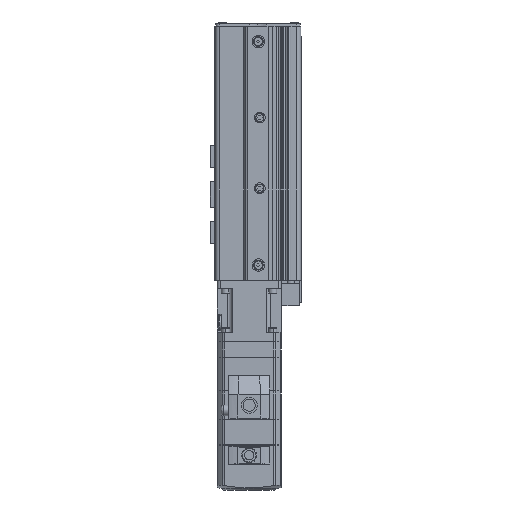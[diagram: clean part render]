
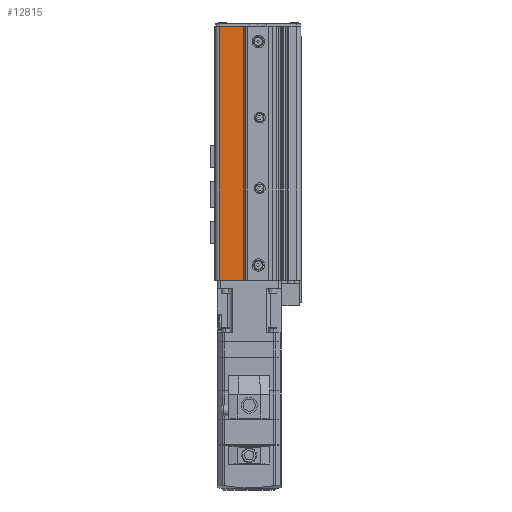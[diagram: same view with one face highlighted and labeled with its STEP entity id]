
A CAD part, left-side view. The second image highlights one B-rep face of the part: STEP entity #12815.
In plain terms, the highlighted planar face has unit normal (-1, 0, 0).
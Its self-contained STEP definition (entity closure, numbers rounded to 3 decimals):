
#1753 = EDGE_LOOP ( 'NONE', ( #12992, #12993, #12994, #12991 ) ) ;
#5446 = VERTEX_POINT ( 'NONE', #20669 ) ;
#5558 = VERTEX_POINT ( 'NONE', #20781 ) ;
#5594 = VERTEX_POINT ( 'NONE', #20818 ) ;
#5941 = VERTEX_POINT ( 'NONE', #21165 ) ;
#10618 = EDGE_CURVE ( 'NONE', #5594, #5558, #23927, .T. ) ;
#12358 = EDGE_CURVE ( 'NONE', #5594, #5446, #28539, .T. ) ;
#12547 = EDGE_CURVE ( 'NONE', #5558, #5941, #28691, .T. ) ;
#12548 = EDGE_CURVE ( 'NONE', #5941, #5446, #28692, .T. ) ;
#12815 = ADVANCED_FACE ( 'NONE', ( #28884 ), #31511, .F. ) ;
#12991 = ORIENTED_EDGE ( 'NONE', *, *, #12548, .T. ) ;
#12992 = ORIENTED_EDGE ( 'NONE', *, *, #12358, .F. ) ;
#12993 = ORIENTED_EDGE ( 'NONE', *, *, #10618, .T. ) ;
#12994 = ORIENTED_EDGE ( 'NONE', *, *, #12547, .T. ) ;
#20669 = CARTESIAN_POINT ( 'NONE',  ( -22.5, 3.5, 0. ) ) ;
#20781 = CARTESIAN_POINT ( 'NONE',  ( -22.5, 19.5, 167. ) ) ;
#20818 = CARTESIAN_POINT ( 'NONE',  ( -22.5, 3.5, 167. ) ) ;
#21165 = CARTESIAN_POINT ( 'NONE',  ( -22.5, 19.5, 0. ) ) ;
#23927 = LINE ( 'NONE', #26106, #26825 ) ;
#26106 = CARTESIAN_POINT ( 'NONE',  ( -22.5, -34., 167. ) ) ;
#26107 = DIRECTION ( 'NONE',  ( 0., 1., 0. ) ) ;
#26825 = VECTOR ( 'NONE', #26107, 1000. ) ;
#28539 = LINE ( 'NONE', #29922, #29633 ) ;
#28691 = LINE ( 'NONE', #30343, #29859 ) ;
#28692 = LINE ( 'NONE', #30345, #29860 ) ;
#28884 = FACE_OUTER_BOUND ( 'NONE', #1753, .T. ) ;
#29633 = VECTOR ( 'NONE', #29923, 1000. ) ;
#29859 = VECTOR ( 'NONE', #30344, 1000. ) ;
#29860 = VECTOR ( 'NONE', #30346, 1000. ) ;
#29922 = CARTESIAN_POINT ( 'NONE',  ( -22.5, 3.5, 1750. ) ) ;
#29923 = DIRECTION ( 'NONE',  ( 0., 0., -1. ) ) ;
#30343 = CARTESIAN_POINT ( 'NONE',  ( -22.5, 19.5, -1583. ) ) ;
#30344 = DIRECTION ( 'NONE',  ( 0., 0., -1. ) ) ;
#30345 = CARTESIAN_POINT ( 'NONE',  ( -22.5, -34., 0. ) ) ;
#30346 = DIRECTION ( 'NONE',  ( 0., -1., 0. ) ) ;
#31200 = AXIS2_PLACEMENT_3D ( 'NONE', #31512, #31513, #31514 ) ;
#31511 = PLANE ( 'NONE',  #31200 ) ;
#31512 = CARTESIAN_POINT ( 'NONE',  ( -22.5, -34., -1583. ) ) ;
#31513 = DIRECTION ( 'NONE',  ( 1., 0., 0. ) ) ;
#31514 = DIRECTION ( 'NONE',  ( 0., 0., -1. ) ) ;
